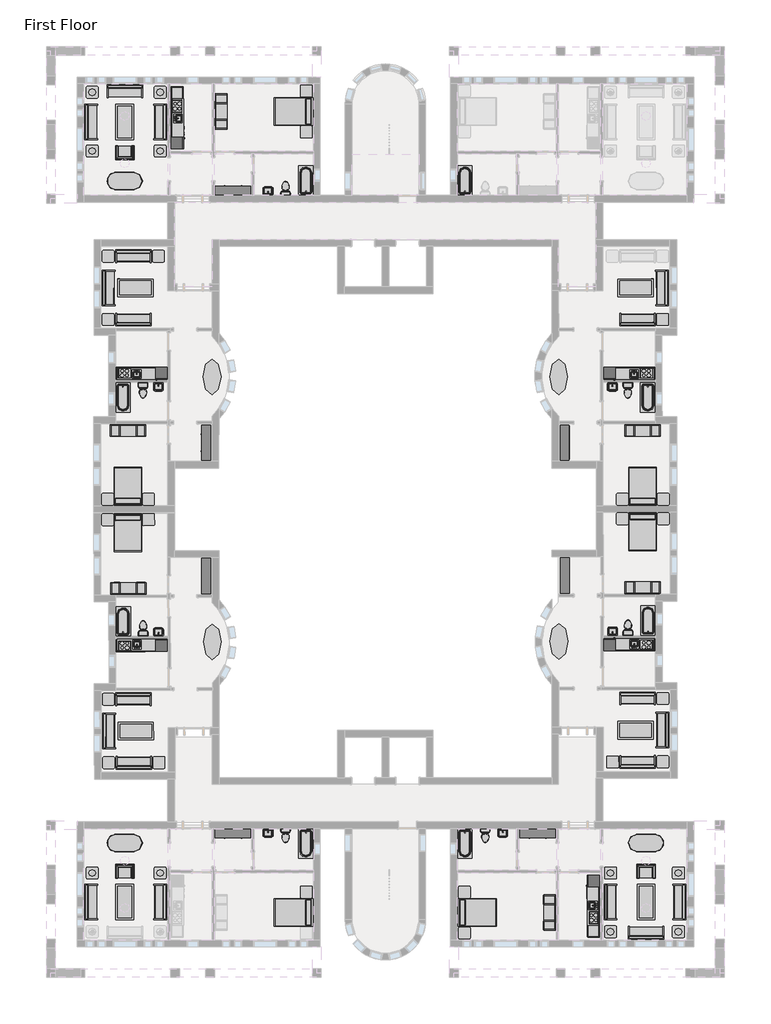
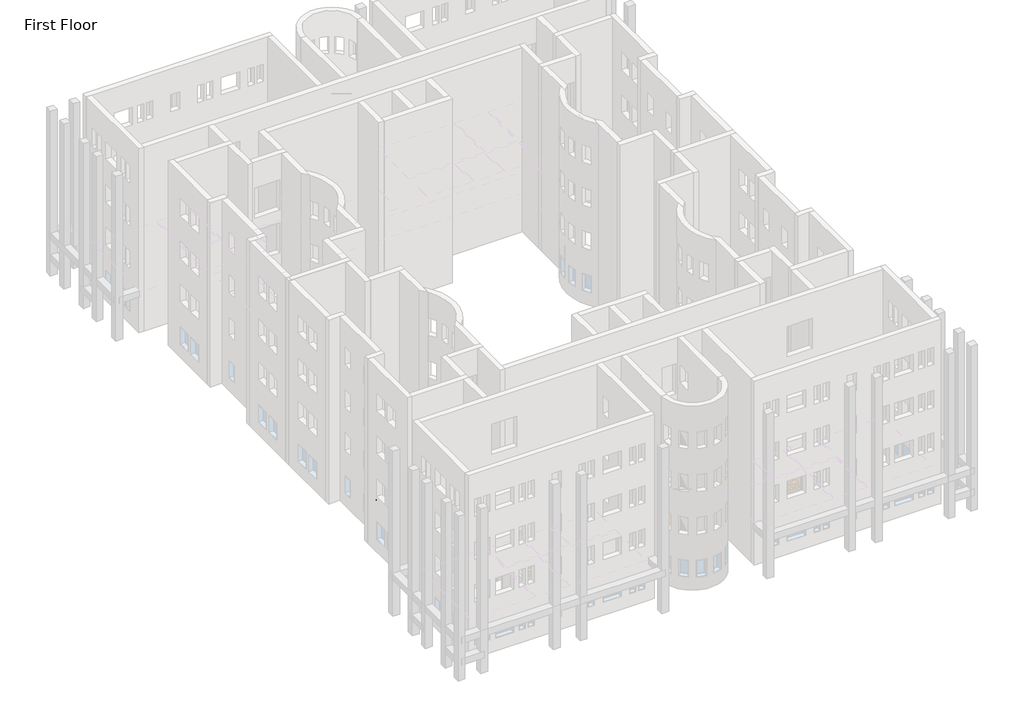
# One storey, part 20 of 21: 89 furniture elements, 22 flow terminals, 6 proxies.
"""IFC4 building model written with IfcOpenShell, lengths in millimetres."""

from ifc_helpers import new_model, si_unit, origin, place, context, project, spatial, transform, mapped, element, save
from components import kitchenette_medium_5_9f73a4de, kitchenette_medium_5_952fb32b, proxy_b7eaed23, flow_terminal_0aeb31e3, flow_terminal_b53e1081, toilet_domestic_3d_toilet_domestic_3d_f7549cf7, toilet_domestic_3d_toilet_domestic_3d_183bbd19, toilet_domestic_3d_toilet_domestic_3d_a08e12bc, toilet_domestic_3d_toilet_domestic_3d_5530cc89, tub_rectangular_3d_tub_rectangular_3d_5e45a89b, tub_rectangular_3d_tub_rectangular_3d_98eb9c7c, furniture_096e7f55, furniture_097b173b, chair_corbu_chair_corbu_2764bdef, chair_corbu_chair_corbu_95fad79a, furniture_7c473f12, furniture_f6e81328, furniture_ddc78764, furniture_328d9d47, furniture_4ef38d96, furniture_dde8a40a, furniture_cd93a443, furniture_c9413244, furniture_2c34a4f9, furniture_cc351095, furniture_43880056, furniture_a7425590, furniture_3a588284, furniture_1befe2a2

model = new_model("IFC4")

# Units and contexts
model_context = context("Model", 3, world=origin())
ifc_project = project(units=[si_unit("LENGTHUNIT", "METRE", prefix="MILLI")], contexts=[model_context])

# Site, building, storey
site = spatial("IfcSite", under=ifc_project)
building = spatial("IfcBuilding", under=site)
storey = spatial("IfcBuildingStorey", under=building, Name="First Floor", Elevation=0.0)

# Proxies
placement = place(None, origin())
kitchenette_medium_5_shape = kitchenette_medium_5_9f73a4de(model_context)
element("IfcBuildingElementProxy", 1, Name="Kitchenette - Medium : 5'", ObjectType="Kitchenette - Medium : 5'", at=placement, inside=storey, context=model_context, shape_type="MappedRepresentation", body=[
    mapped(kitchenette_medium_5_shape, transform((-28115.9558657, -4341.3908327, 0.0), x_axis=(0.999999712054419, -0.0007588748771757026, 0.0), y_axis=(0.0007588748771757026, 0.999999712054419, 0.0), z_axis=(0.0, 0.0, 1.0))),
])
element("IfcBuildingElementProxy", 2, Name="Kitchenette - Medium : 5'", ObjectType="Kitchenette - Medium : 5'", at=placement, inside=storey, context=model_context, shape_type="MappedRepresentation", body=[
    mapped(kitchenette_medium_5_shape, transform((-1743.2927735, -18960.7577669, 0.0), x_axis=(-0.999999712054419, -0.0007588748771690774, 0.0), y_axis=(0.0007588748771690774, -0.999999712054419, 0.0), z_axis=(0.0, 0.0, 1.0))),
])
kitchenette_medium_5_2_shape = kitchenette_medium_5_952fb32b(model_context)
element("IfcBuildingElementProxy", 3, Name="Kitchenette - Medium : 5'", ObjectType="Kitchenette - Medium : 5'", at=placement, inside=storey, context=model_context, shape_type="MappedRepresentation", body=[
    mapped(kitchenette_medium_5_2_shape, transform((-1754.3870469, -4341.3908327, 0.0), x_axis=(-0.999999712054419, -0.0007588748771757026, 0.0), y_axis=(0.0007588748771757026, -0.999999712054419, 0.0), z_axis=(0.0, 0.0, 1.0))),
])
element("IfcBuildingElementProxy", 4, Name="Kitchenette - Medium : 5'", ObjectType="Kitchenette - Medium : 5'", at=placement, inside=storey, context=model_context, shape_type="MappedRepresentation", body=[
    mapped(kitchenette_medium_5_2_shape, transform((-28104.8312294, -19000.76802, 0.0), x_axis=(0.9999974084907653, 0.002276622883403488, 0.0), y_axis=(-0.002276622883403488, 0.9999974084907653, 0.0), z_axis=(0.0, 0.0, 1.0))),
])
proxy_shape = proxy_b7eaed23(model_context)
element("IfcBuildingElementProxy", 5, Name="Kitchenette - Medium : 8'6\"", ObjectType="Kitchenette - Medium : 8'6\"", at=placement, inside=storey, context=model_context, shape_type="MappedRepresentation", body=[
    mapped(proxy_shape, transform((-25982.5839563, 8837.7956433, 0.0), x_axis=(0.0, -1.0, 0.0), y_axis=(1.0, 0.0, 0.0), z_axis=(0.0, 0.0, 1.0))),
])
element("IfcBuildingElementProxy", 6, Name="Kitchenette - Medium : 8'6\"", ObjectType="Kitchenette - Medium : 8'6\"", at=placement, inside=storey, context=model_context, shape_type="MappedRepresentation", body=[
    mapped(proxy_shape, transform((-3887.7589563, -32446.1322699, 0.0), x_axis=(0.0, 1.0, 0.0), y_axis=(-1.0, 0.0, 0.0), z_axis=(0.0, 0.0, 1.0))),
])

# Flow terminals
flow_terminal_shape = flow_terminal_0aeb31e3(model_context)
element("IfcFlowTerminal", 7, ObjectType="Sink Vanity-Square : 24\" x 19\"", at=placement, inside=storey, context=model_context, shape_type="MappedRepresentation", body=[
    mapped(flow_terminal_shape, transform((-21005.5856969, -28314.9262144, 0.0), x_axis=(1.0, 0.0, 0.0), y_axis=(0.0, 1.0, 0.0), z_axis=(0.0, 0.0, 1.0))),
])
element("IfcFlowTerminal", 8, ObjectType="Sink Vanity-Square : 24\" x 19\"", at=placement, inside=storey, context=model_context, shape_type="MappedRepresentation", body=[
    mapped(flow_terminal_shape, transform((-26665.6587176, -5302.9351766, 0.0), x_axis=(0.999999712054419, -0.000758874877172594, 0.0), y_axis=(0.000758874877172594, 0.999999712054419, 0.0), z_axis=(0.0, 0.0, 1.0))),
])
element("IfcFlowTerminal", 9, ObjectType="Sink Vanity-Square : 24\" x 19\"", at=placement, inside=storey, context=model_context, shape_type="MappedRepresentation", body=[
    mapped(flow_terminal_shape, transform((-3195.0476344, -18001.4157179, 0.0), x_axis=(-0.999999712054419, -0.000758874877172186, 0.0), y_axis=(0.000758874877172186, -0.999999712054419, 0.0), z_axis=(0.0, 0.0, 1.0))),
])
flow_terminal_2_shape = flow_terminal_b53e1081(model_context)
element("IfcFlowTerminal", 10, ObjectType="Sink Vanity-Square : 24\" x 19\"", at=placement, inside=storey, context=model_context, shape_type="MappedRepresentation", body=[
    mapped(flow_terminal_2_shape, transform((-21005.5856969, 4706.5895878, 0.0), x_axis=(1.0, 0.0, 0.0), y_axis=(0.0, 1.0, 0.0), z_axis=(0.0, 0.0, 1.0))),
])
element("IfcFlowTerminal", 11, ObjectType="Sink Vanity-Square : 24\" x 19\"", at=placement, inside=storey, context=model_context, shape_type="MappedRepresentation", body=[
    mapped(flow_terminal_2_shape, transform((-8864.7572157, -28314.9262144, 0.0), x_axis=(-1.0, 0.0, 0.0), y_axis=(0.0, -1.0, 0.0), z_axis=(0.0, 0.0, 1.0))),
])
element("IfcFlowTerminal", 12, ObjectType="Sink Vanity-Square : 24\" x 19\"", at=placement, inside=storey, context=model_context, shape_type="MappedRepresentation", body=[
    mapped(flow_terminal_2_shape, transform((-3204.6841951, -5302.9351766, 0.0), x_axis=(-0.999999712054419, -0.000758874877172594, 0.0), y_axis=(0.000758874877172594, -0.999999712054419, 0.0), z_axis=(0.0, 0.0, 1.0))),
])
element("IfcFlowTerminal", 13, ObjectType="Sink Vanity-Square : 24\" x 19\"", at=placement, inside=storey, context=model_context, shape_type="MappedRepresentation", body=[
    mapped(flow_terminal_2_shape, transform((-26655.995135, -18037.023596, 0.0), x_axis=(0.9999974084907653, 0.002276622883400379, 0.0), y_axis=(-0.002276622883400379, 0.9999974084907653, 0.0), z_axis=(0.0, 0.0, 1.0))),
])
toilet_domestic_3d_toilet_domestic_3d_shape = toilet_domestic_3d_toilet_domestic_3d_f7549cf7(model_context)
toilet_domestic_3d_toilet_domestic_3d_2_shape = toilet_domestic_3d_toilet_domestic_3d_183bbd19(model_context)
element("IfcFlowTerminal", 14, ObjectType="Toilet-Domestic-3D : Toilet-Domestic-3D", at=placement, inside=storey, context=model_context, shape_type="MappedRepresentation", body=[
    mapped(toilet_domestic_3d_toilet_domestic_3d_shape, transform((-20088.1962539, -28549.2030376, 0.0), x_axis=(1.0000000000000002, 0.0, 0.0), y_axis=(0.0, 1.0000000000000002, 0.0), z_axis=(0.0, 0.0, 1.0))),
    mapped(toilet_domestic_3d_toilet_domestic_3d_2_shape, transform((-20088.1962539, -28549.2030376, 0.0), x_axis=(1.0000000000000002, 0.0, 0.0), y_axis=(0.0, 1.0000000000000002, 0.0), z_axis=(0.0, 0.0, 1.0))),
])
element("IfcFlowTerminal", 15, ObjectType="Toilet-Domestic-3D : Toilet-Domestic-3D", at=placement, inside=storey, context=model_context, shape_type="MappedRepresentation", body=[
    mapped(toilet_domestic_3d_toilet_domestic_3d_shape, transform((-27445.5037562, -5627.8592777, 0.0), x_axis=(0.9999997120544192, -0.0007588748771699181, 0.0), y_axis=(0.0007588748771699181, 0.9999997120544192, 0.0), z_axis=(0.0, 0.0, 1.0))),
    mapped(toilet_domestic_3d_toilet_domestic_3d_2_shape, transform((-27445.5037562, -5627.8592777, 0.0), x_axis=(0.9999997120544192, -0.0007588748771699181, 0.0), y_axis=(0.0007588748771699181, 0.9999997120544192, 0.0), z_axis=(0.0, 0.0, 1.0))),
])
element("IfcFlowTerminal", 16, ObjectType="Toilet-Domestic-3D : Toilet-Domestic-3D", at=placement, inside=storey, context=model_context, shape_type="MappedRepresentation", body=[
    mapped(toilet_domestic_3d_toilet_domestic_3d_shape, transform((-2415.6966474, -17675.3083819, 0.0), x_axis=(-0.9999997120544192, -0.0007588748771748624, 0.0), y_axis=(0.0007588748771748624, -0.9999997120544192, 0.0), z_axis=(0.0, 0.0, 1.0))),
    mapped(toilet_domestic_3d_toilet_domestic_3d_2_shape, transform((-2415.6966474, -17675.3083819, 0.0), x_axis=(-0.9999997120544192, -0.0007588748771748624, 0.0), y_axis=(0.0007588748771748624, -0.9999997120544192, 0.0), z_axis=(0.0, 0.0, 1.0))),
])
toilet_domestic_3d_toilet_domestic_3d_3_shape = toilet_domestic_3d_toilet_domestic_3d_a08e12bc(model_context)
toilet_domestic_3d_toilet_domestic_3d_4_shape = toilet_domestic_3d_toilet_domestic_3d_5530cc89(model_context)
element("IfcFlowTerminal", 17, ObjectType="Toilet-Domestic-3D : Toilet-Domestic-3D", at=placement, inside=storey, context=model_context, shape_type="MappedRepresentation", body=[
    mapped(toilet_domestic_3d_toilet_domestic_3d_3_shape, transform((-20088.1962539, 4940.866411, 0.0), x_axis=(1.0000000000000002, 0.0, 0.0), y_axis=(0.0, 1.0000000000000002, 0.0), z_axis=(0.0, 0.0, 1.0))),
    mapped(toilet_domestic_3d_toilet_domestic_3d_4_shape, transform((-20088.1962539, 4940.866411, 0.0), x_axis=(1.0000000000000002, 0.0, 0.0), y_axis=(0.0, 1.0000000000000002, 0.0), z_axis=(0.0, 0.0, 1.0))),
])
element("IfcFlowTerminal", 18, ObjectType="Toilet-Domestic-3D : Toilet-Domestic-3D", at=placement, inside=storey, context=model_context, shape_type="MappedRepresentation", body=[
    mapped(toilet_domestic_3d_toilet_domestic_3d_3_shape, transform((-9782.1466587, -28549.2030376, 0.0), x_axis=(-1.0000000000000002, 0.0, 0.0), y_axis=(0.0, -1.0000000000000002, 0.0), z_axis=(0.0, 0.0, 1.0))),
    mapped(toilet_domestic_3d_toilet_domestic_3d_4_shape, transform((-9782.1466587, -28549.2030376, 0.0), x_axis=(-1.0000000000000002, 0.0, 0.0), y_axis=(0.0, -1.0000000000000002, 0.0), z_axis=(0.0, 0.0, 1.0))),
])
element("IfcFlowTerminal", 19, ObjectType="Toilet-Domestic-3D : Toilet-Domestic-3D", at=placement, inside=storey, context=model_context, shape_type="MappedRepresentation", body=[
    mapped(toilet_domestic_3d_toilet_domestic_3d_3_shape, transform((-2424.8391564, -5627.8592777, 0.0), x_axis=(-0.9999997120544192, -0.0007588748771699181, 0.0), y_axis=(0.0007588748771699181, -0.9999997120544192, 0.0), z_axis=(0.0, 0.0, 1.0))),
    mapped(toilet_domestic_3d_toilet_domestic_3d_4_shape, transform((-2424.8391564, -5627.8592777, 0.0), x_axis=(-0.9999997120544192, -0.0007588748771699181, 0.0), y_axis=(0.0007588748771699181, -0.9999997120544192, 0.0), z_axis=(0.0, 0.0, 1.0))),
])
element("IfcFlowTerminal", 20, ObjectType="Toilet-Domestic-3D : Toilet-Domestic-3D", at=placement, inside=storey, context=model_context, shape_type="MappedRepresentation", body=[
    mapped(toilet_domestic_3d_toilet_domestic_3d_3_shape, transform((-27436.3324287, -17713.2834785, 0.0), x_axis=(0.9999974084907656, 0.002276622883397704, 0.0), y_axis=(-0.002276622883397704, 0.9999974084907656, 0.0), z_axis=(0.0, 0.0, 1.0))),
    mapped(toilet_domestic_3d_toilet_domestic_3d_4_shape, transform((-27436.3324287, -17713.2834785, 0.0), x_axis=(0.9999974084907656, 0.002276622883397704, 0.0), y_axis=(-0.002276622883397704, 0.9999974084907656, 0.0), z_axis=(0.0, 0.0, 1.0))),
])
tub_rectangular_3d_tub_rectangular_3d_shape = tub_rectangular_3d_tub_rectangular_3d_5e45a89b(model_context)
element("IfcFlowTerminal", 21, ObjectType="Tub-Rectangular-3D : Tub-Rectangular-3D", at=placement, inside=storey, context=model_context, shape_type="MappedRepresentation", body=[
    mapped(tub_rectangular_3d_tub_rectangular_3d_shape, transform((-11393.4589563, 5637.0471554, 0.0), x_axis=(0.0, 1.0, 0.0), y_axis=(-1.0, 0.0, 0.0), z_axis=(0.0, 0.0, 1.0))),
])
element("IfcFlowTerminal", 22, ObjectType="Tub-Rectangular-3D : Tub-Rectangular-3D", at=placement, inside=storey, context=model_context, shape_type="MappedRepresentation", body=[
    mapped(tub_rectangular_3d_tub_rectangular_3d_shape, transform((-18476.8839563, -29245.383782, 0.0), x_axis=(0.0, -1.0, 0.0), y_axis=(1.0, 0.0, 0.0), z_axis=(0.0, 0.0, 1.0))),
])
element("IfcFlowTerminal", 23, ObjectType="Tub-Rectangular-3D : Tub-Rectangular-3D", at=placement, inside=storey, context=model_context, shape_type="MappedRepresentation", body=[
    mapped(tub_rectangular_3d_tub_rectangular_3d_shape, transform((-833.4679216, -6244.2935588, 0.0), x_axis=(0.0007588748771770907, -0.9999997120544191, 0.0), y_axis=(0.9999997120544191, 0.0007588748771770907, 0.0), z_axis=(0.0, 0.0, 1.0))),
])
element("IfcFlowTerminal", 24, ObjectType="Tub-Rectangular-3D : Tub-Rectangular-3D", at=placement, inside=storey, context=model_context, shape_type="MappedRepresentation", body=[
    mapped(tub_rectangular_3d_tub_rectangular_3d_shape, transform((-29028.6374234, -17099.2652099, 0.0), x_axis=(-0.0022766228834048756, 0.9999974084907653, 0.0), y_axis=(-0.9999974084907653, -0.0022766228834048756, 0.0), z_axis=(0.0, 0.0, 1.0))),
])
tub_rectangular_3d_tub_rectangular_3d_2_shape = tub_rectangular_3d_tub_rectangular_3d_98eb9c7c(model_context)
element("IfcFlowTerminal", 25, ObjectType="Tub-Rectangular-3D : Tub-Rectangular-3D", at=placement, inside=storey, context=model_context, shape_type="MappedRepresentation", body=[
    mapped(tub_rectangular_3d_tub_rectangular_3d_2_shape, transform((-18476.8839563, 5637.0471554, 0.0), x_axis=(0.0, 1.0, 0.0), y_axis=(-1.0, 0.0, 0.0), z_axis=(0.0, 0.0, 1.0))),
])
element("IfcFlowTerminal", 26, ObjectType="Tub-Rectangular-3D : Tub-Rectangular-3D", at=placement, inside=storey, context=model_context, shape_type="MappedRepresentation", body=[
    mapped(tub_rectangular_3d_tub_rectangular_3d_2_shape, transform((-11393.4589563, -29245.383782, 0.0), x_axis=(0.0, -1.0, 0.0), y_axis=(1.0, 0.0, 0.0), z_axis=(0.0, 0.0, 1.0))),
])
element("IfcFlowTerminal", 27, ObjectType="Tub-Rectangular-3D : Tub-Rectangular-3D", at=placement, inside=storey, context=model_context, shape_type="MappedRepresentation", body=[
    mapped(tub_rectangular_3d_tub_rectangular_3d_2_shape, transform((-29036.874991, -6244.2935588, 0.0), x_axis=(-0.0007588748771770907, -0.9999997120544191, 0.0), y_axis=(0.9999997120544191, -0.0007588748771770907, 0.0), z_axis=(0.0, 0.0, 1.0))),
])
element("IfcFlowTerminal", 28, ObjectType="Tub-Rectangular-3D : Tub-Rectangular-3D", at=placement, inside=storey, context=model_context, shape_type="MappedRepresentation", body=[
    mapped(tub_rectangular_3d_tub_rectangular_3d_2_shape, transform((-825.2628381, -17056.4595081, 0.0), x_axis=(-0.0007588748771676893, 0.999999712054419, 0.0), y_axis=(-0.999999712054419, -0.0007588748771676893, 0.0), z_axis=(0.0, 0.0, 1.0))),
])

# Furniture
furniture_shape = furniture_096e7f55(model_context)
element("IfcFurniture", 29, ObjectType="Bed-Shaker : Double 56\" x 78\"", at=placement, inside=storey, context=model_context, shape_type="MappedRepresentation", body=[
    mapped(furniture_shape, transform((-18687.1446324, -32480.2121827, 0.0), x_axis=(0.0, -1.0, 0.0), y_axis=(1.0, 0.0, 0.0), z_axis=(0.0, 0.0, 1.0))),
])
element("IfcFurniture", 30, ObjectType="Bed-Shaker : Double 56\" x 78\"", at=placement, inside=storey, context=model_context, shape_type="MappedRepresentation", body=[
    mapped(furniture_shape, transform((-28234.4313111, -11472.0733247, 0.0), x_axis=(-0.999999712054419, 0.000758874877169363, 0.0), y_axis=(-0.000758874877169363, -0.999999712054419, 0.0), z_axis=(0.0, 0.0, 1.0))),
])
element("IfcFurniture", 31, ObjectType="Bed-Shaker : Double 56\" x 78\"", at=placement, inside=storey, context=model_context, shape_type="MappedRepresentation", body=[
    mapped(furniture_shape, transform((-1635.640053, -11829.9036718, 0.0), x_axis=(0.999999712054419, 0.000758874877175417, 0.0), y_axis=(-0.000758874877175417, 0.999999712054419, 0.0), z_axis=(0.0, 0.0, 1.0))),
])
furniture_2_shape = furniture_097b173b(model_context)
element("IfcFurniture", 32, ObjectType="Bed-Shaker : Double 56\" x 78\"", at=placement, inside=storey, context=model_context, shape_type="MappedRepresentation", body=[
    mapped(furniture_2_shape, transform((-18687.1446324, 8871.8755561, 0.0), x_axis=(0.0, 1.0, 0.0), y_axis=(-1.0, 0.0, 0.0), z_axis=(0.0, 0.0, 1.0))),
])
element("IfcFurniture", 33, ObjectType="Bed-Shaker : Double 56\" x 78\"", at=placement, inside=storey, context=model_context, shape_type="MappedRepresentation", body=[
    mapped(furniture_2_shape, transform((-11183.1982802, -32480.2121827, 0.0), x_axis=(0.0, -1.0, 0.0), y_axis=(1.0, 0.0, 0.0), z_axis=(0.0, 0.0, 1.0))),
])
element("IfcFurniture", 34, ObjectType="Bed-Shaker : Double 56\" x 78\"", at=placement, inside=storey, context=model_context, shape_type="MappedRepresentation", body=[
    mapped(furniture_2_shape, transform((-1635.9116015, -11472.0733247, 0.0), x_axis=(0.999999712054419, 0.000758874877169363, 0.0), y_axis=(-0.000758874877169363, 0.999999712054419, 0.0), z_axis=(0.0, 0.0, 1.0))),
])
element("IfcFurniture", 35, ObjectType="Bed-Shaker : Double 56\" x 78\"", at=placement, inside=storey, context=model_context, shape_type="MappedRepresentation", body=[
    mapped(furniture_2_shape, transform((-28234.1291268, -11870.273557, 0.0), x_axis=(-0.9999974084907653, -0.002276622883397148, 0.0), y_axis=(0.002276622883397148, -0.9999974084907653, 0.0), z_axis=(0.0, 0.0, 1.0))),
])
chair_corbu_chair_corbu_shape = chair_corbu_chair_corbu_2764bdef(model_context)
element("IfcFurniture", 36, ObjectType="Chair-Corbu : Chair-Corbu", at=placement, inside=storey, context=model_context, shape_type="MappedRepresentation", body=[
    mapped(chair_corbu_chair_corbu_shape, transform((-28956.2577268, -30801.8328625, 0.0), x_axis=(1.0, 0.0, 0.0), y_axis=(0.0, 1.0, 0.0), z_axis=(0.0, 0.0, 1.0))),
])
chair_corbu_chair_corbu_2_shape = chair_corbu_chair_corbu_95fad79a(model_context)
element("IfcFurniture", 37, ObjectType="Chair-Corbu : Chair-Corbu", at=placement, inside=storey, context=model_context, shape_type="MappedRepresentation", body=[
    mapped(chair_corbu_chair_corbu_2_shape, transform((-28956.2577268, 7193.4962359, 0.0), x_axis=(1.0, 0.0, 0.0), y_axis=(0.0, 1.0, 0.0), z_axis=(0.0, 0.0, 1.0))),
])
element("IfcFurniture", 38, ObjectType="Chair-Corbu : Chair-Corbu", at=placement, inside=storey, context=model_context, shape_type="MappedRepresentation", body=[
    mapped(chair_corbu_chair_corbu_2_shape, transform((-914.0851858, -30801.8328625, 0.0), x_axis=(-1.0, 0.0, 0.0), y_axis=(0.0, -1.0, 0.0), z_axis=(0.0, 0.0, 1.0))),
])
furniture_3_shape = furniture_7c473f12(model_context)
element("IfcFurniture", 39, ObjectType="Dresser : 72\" x 60\" x 18\"", at=placement, inside=storey, context=model_context, shape_type="MappedRepresentation", body=[
    mapped(furniture_3_shape, transform((-22525.6906965, -28012.9178592, 0.0), x_axis=(1.0, 0.0, 0.0), y_axis=(0.0, 1.0, 0.0), z_axis=(0.0, 0.0, 1.0))),
])
element("IfcFurniture", 40, ObjectType="Dresser : 72\" x 60\" x 18\"", at=placement, inside=storey, context=model_context, shape_type="MappedRepresentation", body=[
    mapped(furniture_3_shape, transform((-23822.4364799, -8502.1683909, 0.0), x_axis=(-0.0007588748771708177, -0.9999997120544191, 0.0), y_axis=(0.9999997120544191, -0.0007588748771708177, 0.0), z_axis=(0.0, 0.0, 1.0))),
])
element("IfcFurniture", 41, ObjectType="Dresser : 72\" x 60\" x 18\"", at=placement, inside=storey, context=model_context, shape_type="MappedRepresentation", body=[
    mapped(furniture_3_shape, transform((-6043.1222313, -14806.5014871, 0.0), x_axis=(-0.0007588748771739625, 0.9999997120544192, 0.0), y_axis=(-0.9999997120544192, -0.0007588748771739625, 0.0), z_axis=(0.0, 0.0, 1.0))),
])
furniture_4_shape = furniture_f6e81328(model_context)
element("IfcFurniture", 42, ObjectType="Dresser : 72\" x 60\" x 18\"", at=placement, inside=storey, context=model_context, shape_type="MappedRepresentation", body=[
    mapped(furniture_4_shape, transform((-22525.6906965, 4404.5812326, 0.0), x_axis=(1.0, 0.0, 0.0), y_axis=(0.0, 1.0, 0.0), z_axis=(0.0, 0.0, 1.0))),
])
element("IfcFurniture", 43, ObjectType="Dresser : 72\" x 60\" x 18\"", at=placement, inside=storey, context=model_context, shape_type="MappedRepresentation", body=[
    mapped(furniture_4_shape, transform((-7344.6522161, -28012.9178592, 0.0), x_axis=(-1.0, 0.0, 0.0), y_axis=(0.0, -1.0, 0.0), z_axis=(0.0, 0.0, 1.0))),
])
element("IfcFurniture", 44, ObjectType="Dresser : 72\" x 60\" x 18\"", at=placement, inside=storey, context=model_context, shape_type="MappedRepresentation", body=[
    mapped(furniture_4_shape, transform((-6047.9064327, -8502.1683909, 0.0), x_axis=(0.0007588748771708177, -0.9999997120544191, 0.0), y_axis=(0.9999997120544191, 0.0007588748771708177, 0.0), z_axis=(0.0, 0.0, 1.0))),
])
element("IfcFurniture", 45, ObjectType="Dresser : 72\" x 60\" x 18\"", at=placement, inside=storey, context=model_context, shape_type="MappedRepresentation", body=[
    mapped(furniture_4_shape, transform((-23817.6318062, -14833.4787679, 0.0), x_axis=(-0.0022766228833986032, 0.9999974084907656, 0.0), y_axis=(-0.9999974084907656, -0.0022766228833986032, 0.0), z_axis=(0.0, 0.0, 1.0))),
])
furniture_5_shape = furniture_ddc78764(model_context)
element("IfcFurniture", 46, ObjectType="Entertainment Center : 72\" x 72\" x 24\"", at=placement, inside=storey, context=model_context, shape_type="MappedRepresentation", body=[
    mapped(furniture_5_shape, transform((-28212.1339183, -7192.8614645, 0.0), x_axis=(0.999999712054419, -0.000758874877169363, 0.0), y_axis=(0.000758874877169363, 0.999999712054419, 0.0), z_axis=(0.0, 0.0, 1.0))),
])
element("IfcFurniture", 47, ObjectType="Entertainment Center : 72\" x 72\" x 24\"", at=placement, inside=storey, context=model_context, shape_type="MappedRepresentation", body=[
    mapped(furniture_5_shape, transform((-1651.4426492, -16109.1444452, 0.0), x_axis=(-0.999999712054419, -0.000758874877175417, 0.0), y_axis=(0.000758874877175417, -0.999999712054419, 0.0), z_axis=(0.0, 0.0, 1.0))),
])
furniture_6_shape = furniture_328d9d47(model_context)
element("IfcFurniture", 48, ObjectType="Entertainment Center : 72\" x 72\" x 24\"", at=placement, inside=storey, context=model_context, shape_type="MappedRepresentation", body=[
    mapped(furniture_6_shape, transform((-23810.8839563, 8852.8255561, 0.0), x_axis=(0.0, -1.0, 0.0), y_axis=(1.0, 0.0, 0.0), z_axis=(0.0, 0.0, 1.0))),
])
element("IfcFurniture", 49, ObjectType="Entertainment Center : 72\" x 72\" x 24\"", at=placement, inside=storey, context=model_context, shape_type="MappedRepresentation", body=[
    mapped(furniture_6_shape, transform((-6059.4589563, -32461.1621827, 0.0), x_axis=(0.0, 1.0, 0.0), y_axis=(-1.0, 0.0, 0.0), z_axis=(0.0, 0.0, 1.0))),
])
element("IfcFurniture", 50, ObjectType="Entertainment Center : 72\" x 72\" x 24\"", at=placement, inside=storey, context=model_context, shape_type="MappedRepresentation", body=[
    mapped(furniture_6_shape, transform((-1658.2089943, -7192.8614645, 0.0), x_axis=(-0.999999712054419, -0.000758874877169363, 0.0), y_axis=(0.000758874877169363, -0.999999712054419, 0.0), z_axis=(0.0, 0.0, 1.0))),
])
element("IfcFurniture", 51, ObjectType="Entertainment Center : 72\" x 72\" x 24\"", at=placement, inside=storey, context=model_context, shape_type="MappedRepresentation", body=[
    mapped(furniture_6_shape, transform((-28205.3369889, -16149.4466466, 0.0), x_axis=(0.9999974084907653, 0.002276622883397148, 0.0), y_axis=(-0.002276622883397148, 0.9999974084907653, 0.0), z_axis=(0.0, 0.0, 1.0))),
])
furniture_7_shape = furniture_4ef38d96(model_context)
element("IfcFurniture", 52, ObjectType="Sofa : 72\"", at=placement, inside=storey, context=model_context, shape_type="MappedRepresentation", body=[
    mapped(furniture_7_shape, transform((-29963.929858, -31991.3388051, 0.0), x_axis=(0.0, 1.0, 0.0), y_axis=(-1.0, 0.0, 0.0), z_axis=(0.0, 0.0, 1.0))),
])
element("IfcFurniture", 53, ObjectType="Sofa : 72\"", at=placement, inside=storey, context=model_context, shape_type="MappedRepresentation", body=[
    mapped(furniture_7_shape, transform((-26700.2380547, -31850.5978215, 0.0), x_axis=(0.0, -1.0, 0.0), y_axis=(1.0, 0.0, 0.0), z_axis=(0.0, 0.0, 1.0))),
])
element("IfcFurniture", 54, ObjectType="Sofa : 72\"", at=placement, inside=storey, context=model_context, shape_type="MappedRepresentation", body=[
    mapped(furniture_7_shape, transform((-29062.433459, -314.5399788, 0.0), x_axis=(0.0007588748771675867, 0.9999997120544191, 0.0), y_axis=(-0.9999997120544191, 0.0007588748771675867, 0.0), z_axis=(0.0, 0.0, 1.0))),
])
element("IfcFurniture", 55, ObjectType="Sofa : 72\"", at=placement, inside=storey, context=model_context, shape_type="MappedRepresentation", body=[
    mapped(furniture_7_shape, transform((-27872.7425096, -1733.1630653, 0.0), x_axis=(-0.999999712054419, 0.000758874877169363, 0.0), y_axis=(-0.000758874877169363, -0.999999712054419, 0.0), z_axis=(0.0, 0.0, 1.0))),
])
element("IfcFurniture", 56, ObjectType="Sofa : 72\"", at=placement, inside=storey, context=model_context, shape_type="MappedRepresentation", body=[
    mapped(furniture_7_shape, transform((-790.7045201, -22986.167467, 0.0), x_axis=(0.0007588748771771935, -0.9999997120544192, 0.0), y_axis=(0.9999997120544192, 0.0007588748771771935, 0.0), z_axis=(0.0, 0.0, 1.0))),
])
element("IfcFurniture", 57, ObjectType="Sofa : 72\"", at=placement, inside=storey, context=model_context, shape_type="MappedRepresentation", body=[
    mapped(furniture_7_shape, transform((-1982.5472135, -21569.3516671, 0.0), x_axis=(0.999999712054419, 0.000758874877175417, 0.0), y_axis=(-0.000758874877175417, 0.999999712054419, 0.0), z_axis=(0.0, 0.0, 1.0))),
])
element("IfcFurniture", 58, ObjectType="Sofa : 72\"", at=placement, inside=storey, context=model_context, shape_type="MappedRepresentation", body=[
    mapped(furniture_7_shape, transform((-27850.8838765, -24584.79662, 0.0), x_axis=(-0.9999974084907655, -0.002276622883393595, 0.0), y_axis=(0.002276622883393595, -0.9999974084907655, 0.0), z_axis=(0.0, 0.0, 1.0))),
])
furniture_8_shape = furniture_dde8a40a(model_context)
element("IfcFurniture", 59, ObjectType="Sofa : 72\"", at=placement, inside=storey, context=model_context, shape_type="MappedRepresentation", body=[
    mapped(furniture_8_shape, transform((-28312.5134645, 9741.2775883, 0.0), x_axis=(-1.0, 0.0, 0.0), y_axis=(0.0, -1.0, 0.0), z_axis=(0.0, 0.0, 1.0))),
])
element("IfcFurniture", 60, ObjectType="Sofa : 72\"", at=placement, inside=storey, context=model_context, shape_type="MappedRepresentation", body=[
    mapped(furniture_8_shape, transform((-29963.929858, 8383.0021785, 0.0), x_axis=(0.0, -1.0, 0.0), y_axis=(1.0, 0.0, 0.0), z_axis=(0.0, 0.0, 1.0))),
])
element("IfcFurniture", 61, ObjectType="Sofa : 72\"", at=placement, inside=storey, context=model_context, shape_type="MappedRepresentation", body=[
    mapped(furniture_8_shape, transform((-26700.2380547, 8242.2611949, 0.0), x_axis=(0.0, 1.0, 0.0), y_axis=(-1.0, 0.0, 0.0), z_axis=(0.0, 0.0, 1.0))),
])
element("IfcFurniture", 62, ObjectType="Sofa : 72\"", at=placement, inside=storey, context=model_context, shape_type="MappedRepresentation", body=[
    mapped(furniture_8_shape, transform((-1557.8294481, -33349.614215, 0.0), x_axis=(1.0, 0.0, 0.0), y_axis=(0.0, 1.0, 0.0), z_axis=(0.0, 0.0, 1.0))),
])
element("IfcFurniture", 63, ObjectType="Sofa : 72\"", at=placement, inside=storey, context=model_context, shape_type="MappedRepresentation", body=[
    mapped(furniture_8_shape, transform((93.5869453, -31991.3388051, 0.0), x_axis=(0.0, 1.0, 0.0), y_axis=(-1.0, 0.0, 0.0), z_axis=(0.0, 0.0, 1.0))),
])
element("IfcFurniture", 64, ObjectType="Sofa : 72\"", at=placement, inside=storey, context=model_context, shape_type="MappedRepresentation", body=[
    mapped(furniture_8_shape, transform((-3170.104858, -31850.5978215, 0.0), x_axis=(0.0, -1.0, 0.0), y_axis=(1.0, 0.0, 0.0), z_axis=(0.0, 0.0, 1.0))),
])
element("IfcFurniture", 65, ObjectType="Sofa : 72\"", at=placement, inside=storey, context=model_context, shape_type="MappedRepresentation", body=[
    mapped(furniture_8_shape, transform((-807.9094536, -314.5399788, 0.0), x_axis=(-0.0007588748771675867, 0.9999997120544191, 0.0), y_axis=(-0.9999997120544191, -0.0007588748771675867, 0.0), z_axis=(0.0, 0.0, 1.0))),
])
element("IfcFurniture", 66, ObjectType="Sofa : 72\"", at=placement, inside=storey, context=model_context, shape_type="MappedRepresentation", body=[
    mapped(furniture_8_shape, transform((-1997.600403, -1733.1630653, 0.0), x_axis=(0.999999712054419, 0.000758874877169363, 0.0), y_axis=(-0.000758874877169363, 0.999999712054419, 0.0), z_axis=(0.0, 0.0, 1.0))),
])
element("IfcFurniture", 67, ObjectType="Sofa : 72\"", at=placement, inside=storey, context=model_context, shape_type="MappedRepresentation", body=[
    mapped(furniture_8_shape, transform((-27870.4839609, 1243.0167642, 0.0), x_axis=(-0.999999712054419, 0.0007588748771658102, 0.0), y_axis=(-0.0007588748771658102, -0.999999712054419, 0.0), z_axis=(0.0, 0.0, 1.0))),
])
element("IfcFurniture", 68, ObjectType="Sofa : 72\"", at=placement, inside=storey, context=model_context, shape_type="MappedRepresentation", body=[
    mapped(furniture_8_shape, transform((-1980.2886647, -24545.5314966, 0.0), x_axis=(0.9999997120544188, 0.0007588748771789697, 0.0), y_axis=(-0.0007588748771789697, 0.9999997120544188, 0.0), z_axis=(0.0, 0.0, 1.0))),
])
element("IfcFurniture", 69, ObjectType="Sofa : 72\"", at=placement, inside=storey, context=model_context, shape_type="MappedRepresentation", body=[
    mapped(furniture_8_shape, transform((-29045.1959825, -23029.0507515, 0.0), x_axis=(0.002276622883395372, -0.9999974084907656, 0.0), y_axis=(0.9999974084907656, 0.002276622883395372, 0.0), z_axis=(0.0, 0.0, 1.0))),
])
element("IfcFurniture", 70, ObjectType="Sofa : 72\"", at=placement, inside=storey, context=model_context, shape_type="MappedRepresentation", body=[
    mapped(furniture_8_shape, transform((-27857.6595176, -21608.6236464, 0.0), x_axis=(-0.9999974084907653, -0.002276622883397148, 0.0), y_axis=(0.002276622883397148, -0.9999974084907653, 0.0), z_axis=(0.0, 0.0, 1.0))),
])
furniture_9_shape = furniture_cd93a443(model_context)
element("IfcFurniture", 71, ObjectType="Table-Coffee : 36\" x 72\" x 18\"", at=placement, inside=storey, context=model_context, shape_type="MappedRepresentation", body=[
    mapped(furniture_9_shape, transform((-28287.6728785, -31939.23408, 0.0), x_axis=(0.0, 1.0, 0.0), y_axis=(-1.0, 0.0, 0.0), z_axis=(0.0, 0.0, 1.0))),
])
element("IfcFurniture", 72, ObjectType="Table-Coffee : 36\" x 72\" x 18\"", at=placement, inside=storey, context=model_context, shape_type="MappedRepresentation", body=[
    mapped(furniture_9_shape, transform((-27855.2725225, -340.2966563, 0.0), x_axis=(0.999999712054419, -0.000758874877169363, 0.0), y_axis=(0.000758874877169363, 0.999999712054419, 0.0), z_axis=(0.0, 0.0, 1.0))),
])
element("IfcFurniture", 73, ObjectType="Table-Coffee : 36\" x 72\" x 18\"", at=placement, inside=storey, context=model_context, shape_type="MappedRepresentation", body=[
    mapped(furniture_9_shape, transform((-1997.9031584, -22962.2429868, 0.0), x_axis=(-0.999999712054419, -0.000758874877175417, 0.0), y_axis=(0.000758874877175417, -0.999999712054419, 0.0), z_axis=(0.0, 0.0, 1.0))),
])
furniture_10_shape = furniture_c9413244(model_context)
element("IfcFurniture", 74, ObjectType="Table-Coffee : 36\" x 72\" x 18\"", at=placement, inside=storey, context=model_context, shape_type="MappedRepresentation", body=[
    mapped(furniture_10_shape, transform((-28287.6728785, 8330.8974534, 0.0), x_axis=(0.0, -1.0, 0.0), y_axis=(1.0, 0.0, 0.0), z_axis=(0.0, 0.0, 1.0))),
])
element("IfcFurniture", 75, ObjectType="Table-Coffee : 36\" x 72\" x 18\"", at=placement, inside=storey, context=model_context, shape_type="MappedRepresentation", body=[
    mapped(furniture_10_shape, transform((-1582.6700341, -31939.23408, 0.0), x_axis=(0.0, 1.0, 0.0), y_axis=(-1.0, 0.0, 0.0), z_axis=(0.0, 0.0, 1.0))),
])
element("IfcFurniture", 76, ObjectType="Table-Coffee : 36\" x 72\" x 18\"", at=placement, inside=storey, context=model_context, shape_type="MappedRepresentation", body=[
    mapped(furniture_10_shape, transform((-2015.0703901, -340.2966563, 0.0), x_axis=(-0.999999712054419, -0.000758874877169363, 0.0), y_axis=(0.000758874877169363, -0.999999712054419, 0.0), z_axis=(0.0, 0.0, 1.0))),
])
element("IfcFurniture", 77, ObjectType="Table-Coffee : 36\" x 72\" x 18\"", at=placement, inside=storey, context=model_context, shape_type="MappedRepresentation", body=[
    mapped(furniture_10_shape, transform((-27838.0755286, -23001.461936, 0.0), x_axis=(0.9999974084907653, 0.002276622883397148, 0.0), y_axis=(-0.002276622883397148, 0.9999974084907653, 0.0), z_axis=(0.0, 0.0, 1.0))),
])
furniture_11_shape = furniture_2c34a4f9(model_context)
element("IfcFurniture", 78, ObjectType="Table-Dining Oval : 36\" x 72\"", at=placement, inside=storey, context=model_context, shape_type="MappedRepresentation", body=[
    mapped(furniture_11_shape, transform((-28784.7036284, -29231.066674, 0.0), x_axis=(-1.0, 0.0, 0.0), y_axis=(0.0, -1.0, 0.0), z_axis=(0.0, 0.0, 1.0))),
])
furniture_12_shape = furniture_cc351095(model_context)
element("IfcFurniture", 79, ObjectType="Table-Dining Oval : 36\" x 72\"", at=placement, inside=storey, context=model_context, shape_type="MappedRepresentation", body=[
    mapped(furniture_12_shape, transform((-28784.7036284, 5622.7300473, 0.0), x_axis=(-1.0, 0.0, 0.0), y_axis=(0.0, -1.0, 0.0), z_axis=(0.0, 0.0, 1.0))),
])
element("IfcFurniture", 80, ObjectType="Table-Dining Oval : 36\" x 72\"", at=placement, inside=storey, context=model_context, shape_type="MappedRepresentation", body=[
    mapped(furniture_12_shape, transform((-1085.6392842, -29231.066674, 0.0), x_axis=(1.0, 0.0, 0.0), y_axis=(0.0, 1.0, 0.0), z_axis=(0.0, 0.0, 1.0))),
])
furniture_13_shape = furniture_43880056(model_context)
element("IfcFurniture", 81, ObjectType="Table-Ellipse : 72\" x 36\"", at=placement, inside=storey, context=model_context, shape_type="MappedRepresentation", body=[
    mapped(furniture_13_shape, transform((-23878.0172719, -4835.9801121, 0.0), x_axis=(0.0007588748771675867, 0.9999997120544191, 0.0), y_axis=(-0.9999997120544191, 0.0007588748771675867, 0.0), z_axis=(0.0, 0.0, 1.0))),
])
element("IfcFurniture", 82, ObjectType="Table-Ellipse : 72\" x 36\"", at=placement, inside=storey, context=model_context, shape_type="MappedRepresentation", body=[
    mapped(furniture_13_shape, transform((-5981.9771486, -18472.6011855, 0.0), x_axis=(0.0007588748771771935, -0.9999997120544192, 0.0), y_axis=(0.9999997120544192, 0.0007588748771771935, 0.0), z_axis=(0.0, 0.0, 1.0))),
])
furniture_14_shape = furniture_a7425590(model_context)
element("IfcFurniture", 83, ObjectType="Table-Ellipse : 72\" x 36\"", at=placement, inside=storey, context=model_context, shape_type="MappedRepresentation", body=[
    mapped(furniture_14_shape, transform((-5992.3256408, -4835.9801121, 0.0), x_axis=(-0.0007588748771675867, 0.9999997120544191, 0.0), y_axis=(-0.9999997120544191, -0.0007588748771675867, 0.0), z_axis=(0.0, 0.0, 1.0))),
])
element("IfcFurniture", 84, ObjectType="Table-Ellipse : 72\" x 36\"", at=placement, inside=storey, context=model_context, shape_type="MappedRepresentation", body=[
    mapped(furniture_14_shape, transform((-23867.6481793, -18499.7471818, 0.0), x_axis=(0.002276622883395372, -0.9999974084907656, 0.0), y_axis=(0.9999974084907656, 0.002276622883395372, 0.0), z_axis=(0.0, 0.0, 1.0))),
])
furniture_15_shape = furniture_3a588284(model_context)
element("IfcFurniture", 85, ObjectType="Table-End : 24\" x 24\"", at=placement, inside=storey, context=model_context, shape_type="MappedRepresentation", body=[
    mapped(furniture_15_shape, transform((-18706.1082771, 7949.5773764, 0.0), x_axis=(-1.0, 0.0, 0.0), y_axis=(0.0, -1.0, 0.0), z_axis=(0.0, 0.0, 1.0))),
])
element("IfcFurniture", 86, ObjectType="Table-End : 24\" x 24\"", at=placement, inside=storey, context=model_context, shape_type="MappedRepresentation", body=[
    mapped(furniture_15_shape, transform((-11164.2346356, -31557.9140031, 0.0), x_axis=(1.0, 0.0, 0.0), y_axis=(0.0, 1.0, 0.0), z_axis=(0.0, 0.0, 1.0))),
])
element("IfcFurniture", 87, ObjectType="Table-End : 24\" x 24\"", at=placement, inside=storey, context=model_context, shape_type="MappedRepresentation", body=[
    mapped(furniture_15_shape, transform((-26245.550326, -30268.3808133, 0.0), x_axis=(-1.0, 0.0, 0.0), y_axis=(0.0, -1.0, 0.0), z_axis=(0.0, 0.0, 1.0))),
])
element("IfcFurniture", 88, ObjectType="Table-End : 24\" x 24\"", at=placement, inside=storey, context=model_context, shape_type="MappedRepresentation", body=[
    mapped(furniture_15_shape, transform((-29750.750326, -30268.3808133, 0.0), x_axis=(-1.0, 0.0, 0.0), y_axis=(0.0, -1.0, 0.0), z_axis=(0.0, 0.0, 1.0))),
])
element("IfcFurniture", 89, ObjectType="Table-End : 24\" x 24\"", at=placement, inside=storey, context=model_context, shape_type="MappedRepresentation", body=[
    mapped(furniture_15_shape, transform((-2558.2239066, -11453.8095945, 0.0), x_axis=(-0.0007588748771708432, 0.9999997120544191, 0.0), y_axis=(-0.9999997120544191, -0.0007588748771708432, 0.0), z_axis=(0.0, 0.0, 1.0))),
])
element("IfcFurniture", 90, ObjectType="Table-End : 24\" x 24\"", at=placement, inside=storey, context=model_context, shape_type="MappedRepresentation", body=[
    mapped(furniture_15_shape, transform((-29086.4577031, -2186.9298666, 0.0), x_axis=(0.0007588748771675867, 0.9999997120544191, 0.0), y_axis=(-0.9999997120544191, 0.0007588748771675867, 0.0), z_axis=(0.0, 0.0, 1.0))),
])
element("IfcFurniture", 91, ObjectType="Table-End : 24\" x 24\"", at=placement, inside=storey, context=model_context, shape_type="MappedRepresentation", body=[
    mapped(furniture_15_shape, transform((-29118.6148451, -11452.4386898, 0.0), x_axis=(0.0007588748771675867, 0.9999997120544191, 0.0), y_axis=(-0.9999997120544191, 0.0007588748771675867, 0.0), z_axis=(0.0, 0.0, 1.0))),
])
element("IfcFurniture", 92, ObjectType="Table-End : 24\" x 24\"", at=placement, inside=storey, context=model_context, shape_type="MappedRepresentation", body=[
    mapped(furniture_15_shape, transform((-26797.5097104, 1696.8903703, 0.0), x_axis=(-0.0007588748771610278, -0.9999997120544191, 0.0), y_axis=(0.9999997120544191, -0.0007588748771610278, 0.0), z_axis=(0.0, 0.0, 1.0))),
])
element("IfcFurniture", 93, ObjectType="Table-End : 24\" x 24\"", at=placement, inside=storey, context=model_context, shape_type="MappedRepresentation", body=[
    mapped(furniture_15_shape, transform((-769.5221222, -21113.743273, 0.0), x_axis=(0.0007588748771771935, -0.9999997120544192, 0.0), y_axis=(0.9999997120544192, 0.0007588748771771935, 0.0), z_axis=(0.0, 0.0, 1.0))),
])
element("IfcFurniture", 94, ObjectType="Table-End : 24\" x 24\"", at=placement, inside=storey, context=model_context, shape_type="MappedRepresentation", body=[
    mapped(furniture_15_shape, transform((-751.427737, -11848.1963152, 0.0), x_axis=(0.0007588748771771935, -0.9999997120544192, 0.0), y_axis=(0.9999997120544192, 0.0007588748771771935, 0.0), z_axis=(0.0, 0.0, 1.0))),
])
element("IfcFurniture", 95, ObjectType="Table-End : 24\" x 24\"", at=placement, inside=storey, context=model_context, shape_type="MappedRepresentation", body=[
    mapped(furniture_15_shape, transform((-3052.572813, -25001.0330859, 0.0), x_axis=(-0.0007588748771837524, 0.9999997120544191, 0.0), y_axis=(-0.9999997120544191, -0.0007588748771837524, 0.0), z_axis=(0.0, 0.0, 1.0))),
])
element("IfcFurniture", 96, ObjectType="Table-End : 24\" x 24\"", at=placement, inside=storey, context=model_context, shape_type="MappedRepresentation", body=[
    mapped(furniture_15_shape, transform((-27311.7901643, -11887.1374273, 0.0), x_axis=(0.0022766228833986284, -0.9999974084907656, 0.0), y_axis=(0.9999974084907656, 0.0022766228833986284, 0.0), z_axis=(0.0, 0.0, 1.0))),
])
element("IfcFurniture", 97, ObjectType="Table-End : 24\" x 24\"", at=placement, inside=storey, context=model_context, shape_type="MappedRepresentation", body=[
    mapped(furniture_15_shape, transform((-29063.2160714, -25042.2455573, 0.0), x_axis=(-0.002276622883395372, 0.9999974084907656, 0.0), y_axis=(-0.9999974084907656, -0.002276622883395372, 0.0), z_axis=(0.0, 0.0, 1.0))),
])
furniture_16_shape = furniture_1befe2a2(model_context)
element("IfcFurniture", 98, ObjectType="Table-End : 24\" x 24\"", at=placement, inside=storey, context=model_context, shape_type="MappedRepresentation", body=[
    mapped(furniture_16_shape, transform((-29750.750326, 9684.2316867, 0.0), x_axis=(-1.0, 0.0, 0.0), y_axis=(0.0, -1.0, 0.0), z_axis=(0.0, 0.0, 1.0))),
])
element("IfcFurniture", 99, ObjectType="Table-End : 24\" x 24\"", at=placement, inside=storey, context=model_context, shape_type="MappedRepresentation", body=[
    mapped(furniture_16_shape, transform((-26245.550326, 9684.2316867, 0.0), x_axis=(-1.0, 0.0, 0.0), y_axis=(0.0, -1.0, 0.0), z_axis=(0.0, 0.0, 1.0))),
])
element("IfcFurniture", 100, ObjectType="Table-End : 24\" x 24\"", at=placement, inside=storey, context=model_context, shape_type="MappedRepresentation", body=[
    mapped(furniture_16_shape, transform((-26245.550326, 6660.0441867, 0.0), x_axis=(-1.0, 0.0, 0.0), y_axis=(0.0, -1.0, 0.0), z_axis=(0.0, 0.0, 1.0))),
])
element("IfcFurniture", 101, ObjectType="Table-End : 24\" x 24\"", at=placement, inside=storey, context=model_context, shape_type="MappedRepresentation", body=[
    mapped(furniture_16_shape, transform((-29750.750326, 6660.0441867, 0.0), x_axis=(-1.0, 0.0, 0.0), y_axis=(0.0, -1.0, 0.0), z_axis=(0.0, 0.0, 1.0))),
])
element("IfcFurniture", 102, ObjectType="Table-End : 24\" x 24\"", at=placement, inside=storey, context=model_context, shape_type="MappedRepresentation", body=[
    mapped(furniture_16_shape, transform((-18706.1082771, 9756.0737357, 0.0), x_axis=(-1.0, 0.0, 0.0), y_axis=(0.0, -1.0, 0.0), z_axis=(0.0, 0.0, 1.0))),
])
element("IfcFurniture", 103, ObjectType="Table-End : 24\" x 24\"", at=placement, inside=storey, context=model_context, shape_type="MappedRepresentation", body=[
    mapped(furniture_16_shape, transform((-119.5925866, -33292.5683133, 0.0), x_axis=(1.0, 0.0, 0.0), y_axis=(0.0, 1.0, 0.0), z_axis=(0.0, 0.0, 1.0))),
])
element("IfcFurniture", 104, ObjectType="Table-End : 24\" x 24\"", at=placement, inside=storey, context=model_context, shape_type="MappedRepresentation", body=[
    mapped(furniture_16_shape, transform((-3624.7925866, -33292.5683133, 0.0), x_axis=(1.0, 0.0, 0.0), y_axis=(0.0, 1.0, 0.0), z_axis=(0.0, 0.0, 1.0))),
])
element("IfcFurniture", 105, ObjectType="Table-End : 24\" x 24\"", at=placement, inside=storey, context=model_context, shape_type="MappedRepresentation", body=[
    mapped(furniture_16_shape, transform((-3624.7925866, -30268.3808133, 0.0), x_axis=(1.0, 0.0, 0.0), y_axis=(0.0, 1.0, 0.0), z_axis=(0.0, 0.0, 1.0))),
])
element("IfcFurniture", 106, ObjectType="Table-End : 24\" x 24\"", at=placement, inside=storey, context=model_context, shape_type="MappedRepresentation", body=[
    mapped(furniture_16_shape, transform((-119.5925866, -30268.3808133, 0.0), x_axis=(1.0, 0.0, 0.0), y_axis=(0.0, 1.0, 0.0), z_axis=(0.0, 0.0, 1.0))),
])
element("IfcFurniture", 107, ObjectType="Table-End : 24\" x 24\"", at=placement, inside=storey, context=model_context, shape_type="MappedRepresentation", body=[
    mapped(furniture_16_shape, transform((-11164.2346356, -33364.4103623, 0.0), x_axis=(1.0, 0.0, 0.0), y_axis=(0.0, 1.0, 0.0), z_axis=(0.0, 0.0, 1.0))),
])
element("IfcFurniture", 108, ObjectType="Table-End : 24\" x 24\"", at=placement, inside=storey, context=model_context, shape_type="MappedRepresentation", body=[
    mapped(furniture_16_shape, transform((-18706.1082771, -31557.9140031, 0.0), x_axis=(-1.0, 0.0, 0.0), y_axis=(0.0, -1.0, 0.0), z_axis=(0.0, 0.0, 1.0))),
])
element("IfcFurniture", 109, ObjectType="Table-End : 24\" x 24\"", at=placement, inside=storey, context=model_context, shape_type="MappedRepresentation", body=[
    mapped(furniture_16_shape, transform((-783.8852095, -2186.9298666, 0.0), x_axis=(-0.0007588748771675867, 0.9999997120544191, 0.0), y_axis=(-0.9999997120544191, -0.0007588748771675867, 0.0), z_axis=(0.0, 0.0, 1.0))),
])
element("IfcFurniture", 110, ObjectType="Table-End : 24\" x 24\"", at=placement, inside=storey, context=model_context, shape_type="MappedRepresentation", body=[
    mapped(furniture_16_shape, transform((-751.7280676, -11452.4386898, 0.0), x_axis=(-0.0007588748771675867, 0.9999997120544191, 0.0), y_axis=(-0.9999997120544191, -0.0007588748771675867, 0.0), z_axis=(0.0, 0.0, 1.0))),
])
element("IfcFurniture", 111, ObjectType="Table-End : 24\" x 24\"", at=placement, inside=storey, context=model_context, shape_type="MappedRepresentation", body=[
    mapped(furniture_16_shape, transform((-27312.119006, -11453.8095945, 0.0), x_axis=(0.0007588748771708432, 0.9999997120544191, 0.0), y_axis=(-0.9999997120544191, 0.0007588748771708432, 0.0), z_axis=(0.0, 0.0, 1.0))),
])
element("IfcFurniture", 112, ObjectType="Table-End : 24\" x 24\"", at=placement, inside=storey, context=model_context, shape_type="MappedRepresentation", body=[
    mapped(furniture_16_shape, transform((-29083.5090522, 1698.6251583, 0.0), x_axis=(-0.0007588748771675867, -0.9999997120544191, 0.0), y_axis=(0.9999997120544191, -0.0007588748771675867, 0.0), z_axis=(0.0, 0.0, 1.0))),
])
element("IfcFurniture", 113, ObjectType="Table-End : 24\" x 24\"", at=placement, inside=storey, context=model_context, shape_type="MappedRepresentation", body=[
    mapped(furniture_16_shape, transform((-2557.923576, -11849.5672199, 0.0), x_axis=(0.000758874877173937, -0.9999997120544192, 0.0), y_axis=(0.9999997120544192, 0.000758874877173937, 0.0), z_axis=(0.0, 0.0, 1.0))),
])
element("IfcFurniture", 114, ObjectType="Table-End : 24\" x 24\"", at=placement, inside=storey, context=model_context, shape_type="MappedRepresentation", body=[
    mapped(furniture_16_shape, transform((-766.5734712, -24999.2982979, 0.0), x_axis=(-0.0007588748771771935, 0.9999997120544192, 0.0), y_axis=(-0.9999997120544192, -0.0007588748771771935, 0.0), z_axis=(0.0, 0.0, 1.0))),
])
element("IfcFurniture", 115, ObjectType="Table-End : 24\" x 24\"", at=placement, inside=storey, context=model_context, shape_type="MappedRepresentation", body=[
    mapped(furniture_16_shape, transform((-29072.0620174, -21156.6994831, 0.0), x_axis=(0.002276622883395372, -0.9999974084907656, 0.0), y_axis=(0.9999974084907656, 0.002276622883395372, 0.0), z_axis=(0.0, 0.0, 1.0))),
])
element("IfcFurniture", 116, ObjectType="Table-End : 24\" x 24\"", at=placement, inside=storey, context=model_context, shape_type="MappedRepresentation", body=[
    mapped(furniture_16_shape, transform((-29118.281842, -11891.2501383, 0.0), x_axis=(0.002276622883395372, -0.9999974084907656, 0.0), y_axis=(0.9999974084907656, 0.002276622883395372, 0.0), z_axis=(0.0, 0.0, 1.0))),
])
element("IfcFurniture", 117, ObjectType="Table-End : 24\" x 24\"", at=placement, inside=storey, context=model_context, shape_type="MappedRepresentation", body=[
    mapped(furniture_16_shape, transform((-26777.2219955, -25037.0411974, 0.0), x_axis=(-0.0022766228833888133, 0.9999974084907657, 0.0), y_axis=(-0.9999974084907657, -0.0022766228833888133, 0.0), z_axis=(0.0, 0.0, 1.0))),
])

save(model, "model.ifc")
